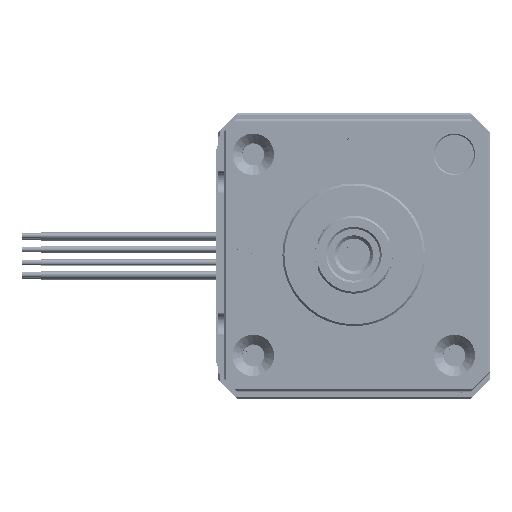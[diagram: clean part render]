
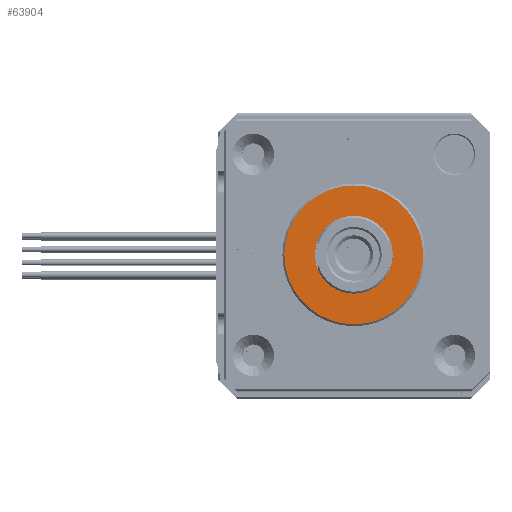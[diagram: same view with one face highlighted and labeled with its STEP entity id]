
A CAD part, top view. The second image highlights one B-rep face of the part: STEP entity #63904.
In plain terms, the highlighted planar face has unit normal (0, 0, 1).
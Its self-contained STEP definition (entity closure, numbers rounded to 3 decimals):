
#61965=CARTESIAN_POINT('',(-43.775,30.041,
319.291));
#61966=DIRECTION('',(0.,0.,-1.));
#61967=DIRECTION('',(-0.096,0.995,0.));
#61968=AXIS2_PLACEMENT_3D('',#61965,#61966,#61967);
#61970=CARTESIAN_POINT('',(-43.775,30.041,
319.291));
#61971=DIRECTION('',(0.,0.,-1.));
#61972=DIRECTION('',(0.,1.,0.));
#61973=AXIS2_PLACEMENT_3D('',#61970,#61971,#61972);
#61975=CARTESIAN_POINT('',(-43.775,30.041,
319.291));
#61976=DIRECTION('',(0.,0.,-1.));
#61977=DIRECTION('',(0.,-1.,0.));
#61978=AXIS2_PLACEMENT_3D('',#61975,#61976,#61977);
#61980=CARTESIAN_POINT('',(-43.775,30.041,
319.291));
#61981=DIRECTION('',(0.,0.,-1.));
#61982=DIRECTION('',(-0.422,0.906,0.));
#61983=AXIS2_PLACEMENT_3D('',#61980,#61981,#61982);
#61985=CARTESIAN_POINT('',(-43.775,30.041,
319.291));
#61986=DIRECTION('',(0.,0.,1.));
#61987=DIRECTION('',(0.,1.,0.));
#61988=AXIS2_PLACEMENT_3D('',#61985,#61986,#61987);
#61990=CARTESIAN_POINT('',(-43.775,30.041,
319.291));
#61991=DIRECTION('',(0.,0.,1.));
#61992=DIRECTION('',(0.,-1.,0.));
#61993=AXIS2_PLACEMENT_3D('',#61990,#61991,#61992);
#62895=CARTESIAN_POINT('',(-48.295,39.74,
319.291));
#62896=VERTEX_POINT('',#62895);
#62897=CARTESIAN_POINT('',(-43.775,19.341,
319.291));
#62898=VERTEX_POINT('',#62897);
#62899=CARTESIAN_POINT('',(-43.775,40.741,
319.291));
#62900=VERTEX_POINT('',#62899);
#62901=CARTESIAN_POINT('',(-44.806,40.691,
319.291));
#62902=VERTEX_POINT('',#62901);
#62903=CARTESIAN_POINT('',(-43.775,35.641,
319.291));
#62904=CARTESIAN_POINT('',(-43.775,24.441,
319.291));
#62905=VERTEX_POINT('',#62903);
#62906=VERTEX_POINT('',#62904);
#63887=CARTESIAN_POINT('',(-44.275,35.441,
319.291));
#63888=DIRECTION('',(0.,0.,1.));
#63889=DIRECTION('',(0.,-1.,0.));
#63890=AXIS2_PLACEMENT_3D('',#63887,#63888,#63889);
#63891=PLANE('',#63890);
#63892=ORIENTED_EDGE('',*,*,#63852,.T.);
#63893=ORIENTED_EDGE('',*,*,#63850,.T.);
#63894=ORIENTED_EDGE('',*,*,#63848,.T.);
#63895=ORIENTED_EDGE('',*,*,#63874,.T.);
#63896=EDGE_LOOP('',(#63892,#63893,#63894,#63895));
#63897=FACE_OUTER_BOUND('',#63896,.F.);
#63899=ORIENTED_EDGE('',*,*,#63898,.T.);
#63901=ORIENTED_EDGE('',*,*,#63900,.T.);
#63902=EDGE_LOOP('',(#63899,#63901));
#63903=FACE_BOUND('',#63902,.F.);
#61969=CIRCLE('',#61968,10.7);
#61974=CIRCLE('',#61973,10.7);
#61979=CIRCLE('',#61978,10.7);
#61984=CIRCLE('',#61983,10.7);
#61989=CIRCLE('',#61988,5.6);
#61994=CIRCLE('',#61993,5.6);
#63848=EDGE_CURVE('',#62898,#62896,#61979,.T.);
#63850=EDGE_CURVE('',#62900,#62898,#61974,.T.);
#63852=EDGE_CURVE('',#62902,#62900,#61969,.T.);
#63874=EDGE_CURVE('',#62896,#62902,#61984,.T.);
#63898=EDGE_CURVE('',#62905,#62906,#61989,.T.);
#63900=EDGE_CURVE('',#62906,#62905,#61994,.T.);
#63904=ADVANCED_FACE('',(#63897,#63903),#63891,.T.);
